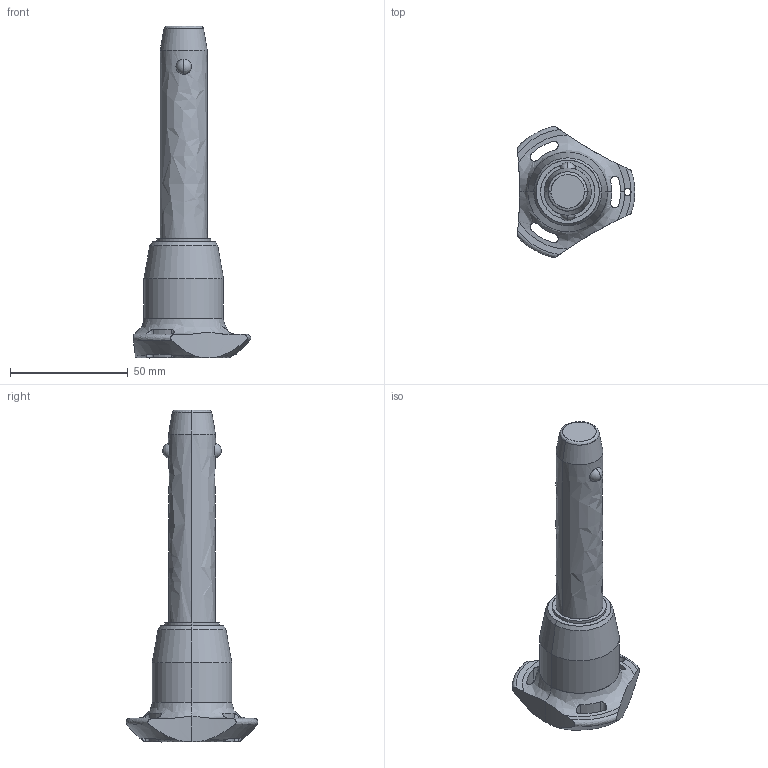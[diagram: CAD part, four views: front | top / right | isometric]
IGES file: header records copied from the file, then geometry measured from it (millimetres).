
Start section: SolidWorks IGES file using analytic representation for surfaces
Global section: file name: C:\Users\ianosborn\Desktop\QR1724_v2\QR1724_v2_20251112_IGES\QR1724.M20-070-S.igs; native system: SolidWorks 2019; preprocessor: SolidWorks 2019; author: IanOsborn; date: 251112.130719; units: millimetre
Bounding box: 50.04 x 56.02 x 141.2 mm (x, y, z)
Surface area: 15365.5 mm2 (no closed solid volume)
Topology: 0 solids, 0 shells, 65 faces, 1310 edges, 1306 vertices
Faces by surface type: revolution 50, bspline 15
